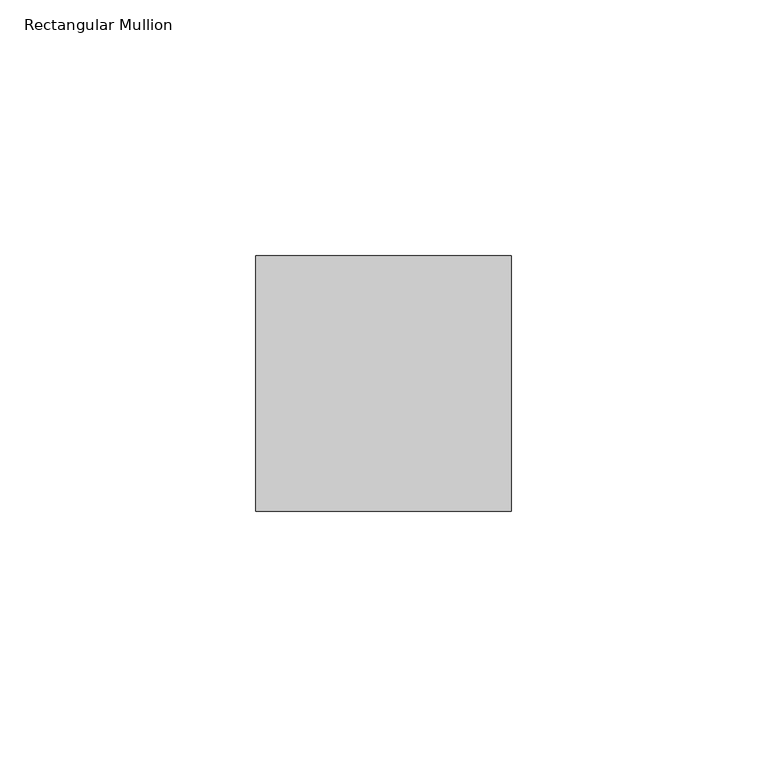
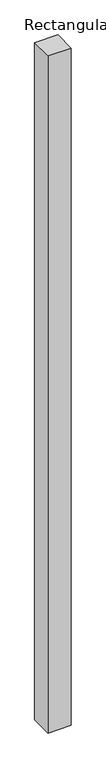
"""IFC4 building model written with IfcOpenShell, lengths in millimetres: member geometry, Rectangular Mullion : Mullion_Curtain Wall_Generic Showcase_50x50mm."""

from ifc_helpers import new_model, si_unit, frame, origin, place, context, project, spatial, polyline, outline, extrude, source, transform, mapped, element, save


def rectangular_mullion_68da8427(model_context):
    return source(origin(), model_context, "Body", "SweptSolid", [
        extrude(outline(polyline([(0.0, 50.0), (0.0, 0.0), (-50.0, 0.0), (-50.0, 50.0), (0.0, 50.0)])), frame((0.0, 0.0, -1550.0), z_axis=(0.0, 0.0, 1.0), x_axis=(1.0, 0.0, 0.0)), (0.0, 0.0, 1.0), 1550.0),
    ])


if __name__ == "__main__":
    model = new_model("IFC4")
    model_context = context("Model", 3, world=origin())
    ifc_project = project(units=[si_unit("LENGTHUNIT", "METRE", prefix="MILLI")], contexts=[model_context])
    site = spatial("IfcSite", under=ifc_project)
    building = spatial("IfcBuilding", under=site)
    placement = place(None, origin())
    rectangular_mullion_shape = rectangular_mullion_68da8427(model_context)
    element("IfcMember", 1, ObjectType="Rectangular Mullion : Mullion_Curtain Wall_Generic Showcase_50x50mm", at=placement, inside=building, context=model_context, shape_type="MappedRepresentation", body=[
        mapped(rectangular_mullion_shape, transform((0.0, 0.0, 0.0), x_axis=(1.0, 0.0, 0.0), y_axis=(0.0, 1.0, 0.0), z_axis=(0.0, 0.0, 1.0))),
    ])
    save(model, "model.ifc")
